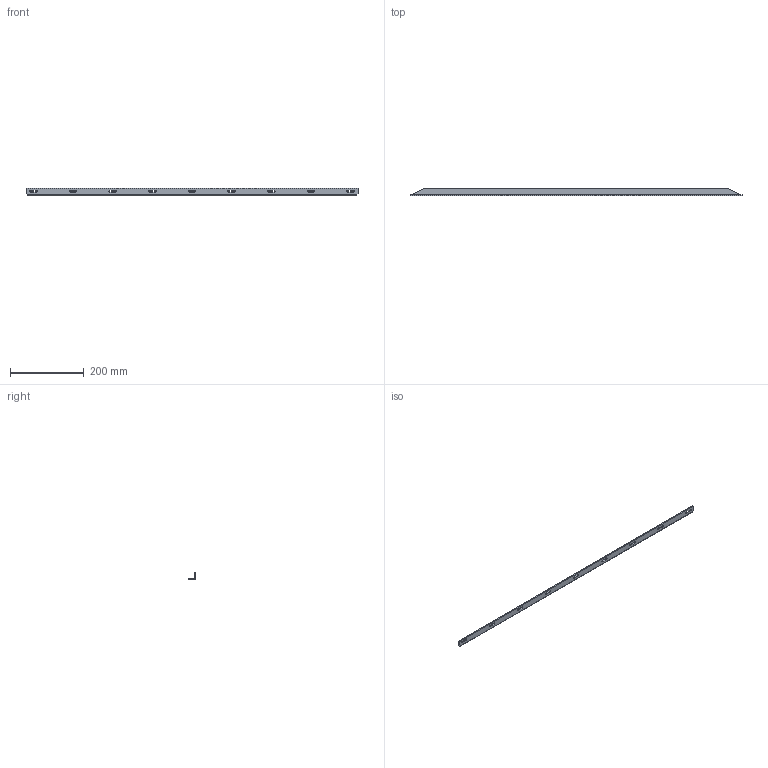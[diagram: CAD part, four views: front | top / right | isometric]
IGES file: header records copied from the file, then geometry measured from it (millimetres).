
Start section: SolidWorks IGES file using analytic representation for surfaces
Bounding box: 900 x 20 x 20 mm (x, y, z)
Surface area: 68512.8 mm2 (no closed solid volume)
Topology: 0 solids, 0 shells, 104 faces, 1246 edges, 1246 vertices
Faces by surface type: bspline 78, revolution 26
